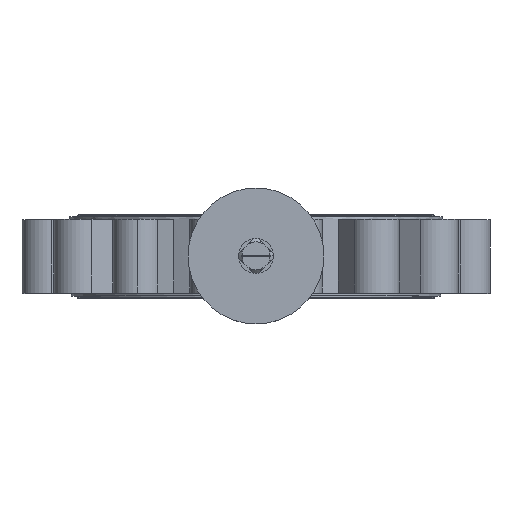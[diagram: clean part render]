
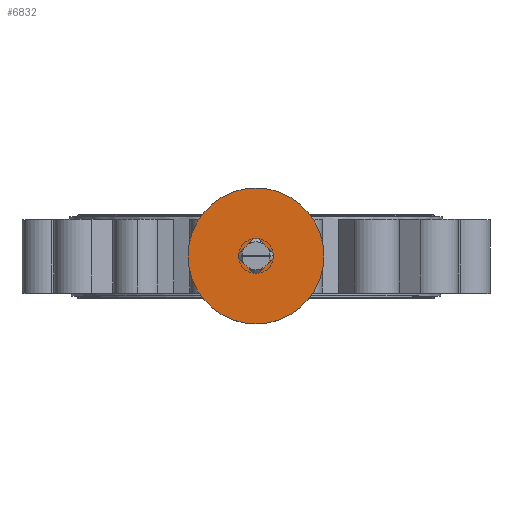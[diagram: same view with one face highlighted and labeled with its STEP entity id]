
A CAD part, top view. The second image highlights one B-rep face of the part: STEP entity #6832.
In plain terms, the highlighted planar face has unit normal (0, 0, 1).
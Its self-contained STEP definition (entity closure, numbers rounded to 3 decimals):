
#199 = DIRECTION ( 'NONE',  ( 0., 0., 1. ) ) ;
#283 = DIRECTION ( 'NONE',  ( 1., 0., 0. ) ) ;
#716 = CIRCLE ( 'NONE', #3595, 87.5 ) ;
#989 = DIRECTION ( 'NONE',  ( 1., 0., 0. ) ) ;
#1565 = DIRECTION ( 'NONE',  ( 0., 0., 1. ) ) ;
#1695 = ORIENTED_EDGE ( 'NONE', *, *, #2239, .T. ) ;
#1775 = EDGE_CURVE ( 'NONE', #2976, #4405, #716, .T. ) ;
#1909 = AXIS2_PLACEMENT_3D ( 'NONE', #3869, #1565, #6171 ) ;
#2239 = EDGE_CURVE ( 'NONE', #4405, #2976, #6858, .T. ) ;
#2604 = PLANE ( 'NONE',  #4945 ) ;
#2976 = VERTEX_POINT ( 'NONE', #6694 ) ;
#3595 = AXIS2_PLACEMENT_3D ( 'NONE', #5314, #199, #283 ) ;
#3845 = CARTESIAN_POINT ( 'NONE',  ( 0., 0., 400. ) ) ;
#3869 = CARTESIAN_POINT ( 'NONE',  ( 0., 0., 400. ) ) ;
#4115 = EDGE_LOOP ( 'NONE', ( #6876, #1695 ) ) ;
#4300 = CARTESIAN_POINT ( 'NONE',  ( -87.5, 0., 400. ) ) ;
#4405 = VERTEX_POINT ( 'NONE', #4300 ) ;
#4870 = DIRECTION ( 'NONE',  ( 0., 0., 1. ) ) ;
#4945 = AXIS2_PLACEMENT_3D ( 'NONE', #3845, #4870, #989 ) ;
#5314 = CARTESIAN_POINT ( 'NONE',  ( 0., 0., 400. ) ) ;
#5580 = FACE_OUTER_BOUND ( 'NONE', #4115, .T. ) ;
#6171 = DIRECTION ( 'NONE',  ( 1., 0., 0. ) ) ;
#6694 = CARTESIAN_POINT ( 'NONE',  ( 87.5, 0., 400. ) ) ;
#6832 = ADVANCED_FACE ( 'NONE', ( #5580 ), #2604, .T. ) ;
#6858 = CIRCLE ( 'NONE', #1909, 87.5 ) ;
#6876 = ORIENTED_EDGE ( 'NONE', *, *, #1775, .T. ) ;
